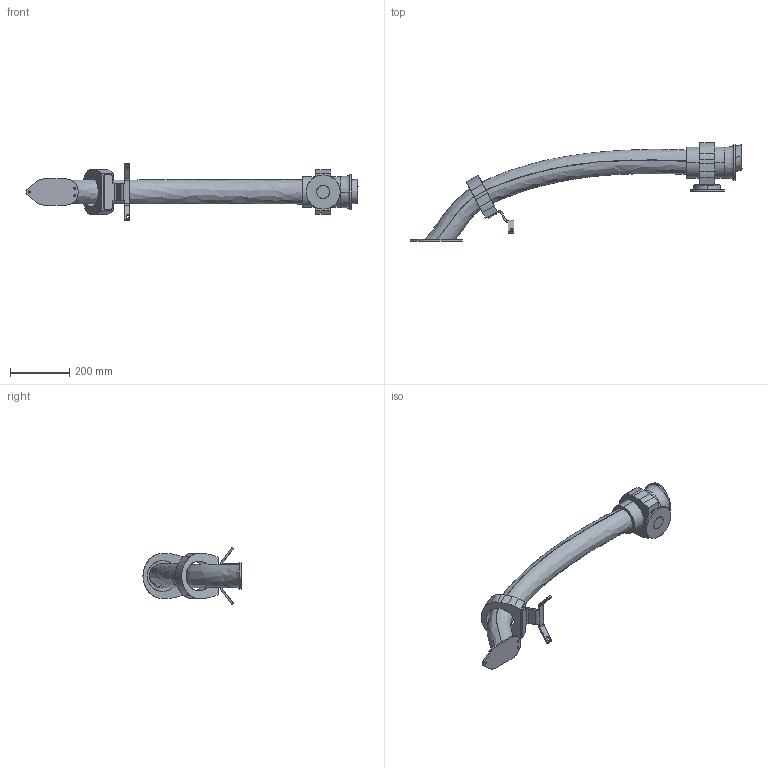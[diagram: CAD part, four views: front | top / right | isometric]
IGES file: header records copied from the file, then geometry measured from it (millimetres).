
Start section: SolidWorks IGES file using analytic representation for surfaces
Global section: file name: B:\DM\Robotics\SEROP_PROJ\Product Development\DevelopmentProjects\HD\3_Design PRMD\4_Struktur SAP o CAD\Lättmodeller\IRB8700-MH6_800-350\IRB8700-MH6_800-350_IRC5_IGES_j\IRB8700-MH6_800-350_IRC5_rev00_LINK4_CABLE.IGS; native system: SolidWorks 2014; preprocessor: SolidWorks 2014; author: sepehak; date: 150604.103011; units: millimetre
Bounding box: 1120.59 x 331.27 x 190.75 mm (x, y, z)
Surface area: 557190.5 mm2 (no closed solid volume)
Topology: 0 solids, 0 shells, 168 faces, 3150 edges, 3150 vertices
Faces by surface type: bspline 97, revolution 71
